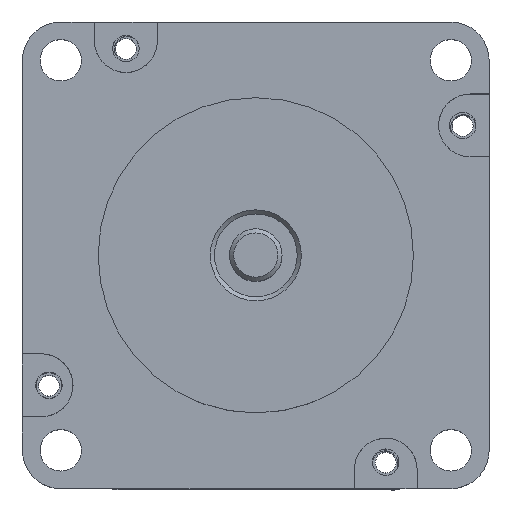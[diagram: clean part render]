
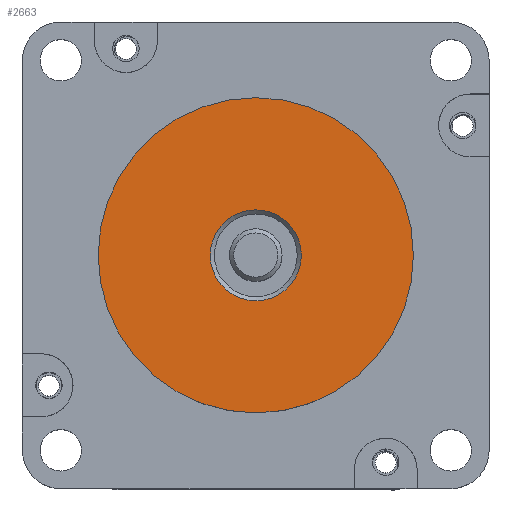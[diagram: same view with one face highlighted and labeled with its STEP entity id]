
A CAD part, top view. The second image highlights one B-rep face of the part: STEP entity #2663.
In plain terms, the highlighted planar face has unit normal (0, 0, 1).
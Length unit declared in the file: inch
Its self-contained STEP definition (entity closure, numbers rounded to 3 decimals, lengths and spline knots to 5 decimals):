
#25=FACE_BOUND('',#294,.T.);
#77=PLANE('',#2863);
#158=FACE_OUTER_BOUND('',#293,.T.);
#293=EDGE_LOOP('',(#1896));
#294=EDGE_LOOP('',(#1897));
#922=CIRCLE('',#2862,0.21654);
#923=CIRCLE('',#2864,0.75);
#1112=VERTEX_POINT('',#4086);
#1113=VERTEX_POINT('',#4090);
#1417=EDGE_CURVE('',#1112,#1112,#922,.F.);
#1418=EDGE_CURVE('',#1113,#1113,#923,.T.);
#1896=ORIENTED_EDGE('',*,*,#1418,.T.);
#1897=ORIENTED_EDGE('',*,*,#1417,.T.);
#2663=ADVANCED_FACE('',(#158,#25),#77,.T.);
#2862=AXIS2_PLACEMENT_3D('',#4088,#3286,#3287);
#2863=AXIS2_PLACEMENT_3D('',#4089,#3288,#3289);
#2864=AXIS2_PLACEMENT_3D('',#4091,#3290,#3291);
#3286=DIRECTION('center_axis',(0.,0.,1.));
#3287=DIRECTION('ref_axis',(1.,0.,0.));
#3288=DIRECTION('center_axis',(0.,0.,1.));
#3289=DIRECTION('ref_axis',(1.,0.,0.));
#3290=DIRECTION('center_axis',(0.,0.,1.));
#3291=DIRECTION('ref_axis',(1.,0.,0.));
#4086=CARTESIAN_POINT('',(-1.05049,0.20204,-2.66263));
#4088=CARTESIAN_POINT('Origin',(-0.83395,0.20204,-2.66263));
#4089=CARTESIAN_POINT('Origin',(-0.83395,0.20204,-2.66263));
#4090=CARTESIAN_POINT('',(-1.58395,0.20204,-2.66263));
#4091=CARTESIAN_POINT('Origin',(-0.83395,0.20204,-2.66263));
